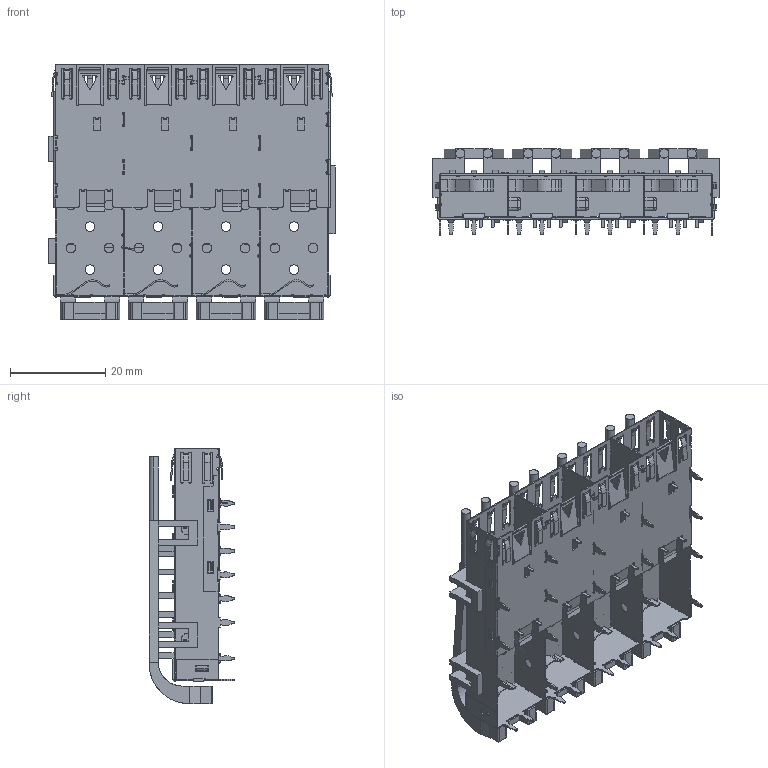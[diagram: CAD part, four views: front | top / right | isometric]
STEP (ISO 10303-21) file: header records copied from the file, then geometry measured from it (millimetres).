
FILE_DESCRIPTION( ('This file contains a STEP AP42 implementation' ,'as created by ZW3D STEP Interface translator.' ,'') ,'2;1' );
FILE_NAME( '10701114W002.stp' ,'25 630.154239', (''), ('ZWCAD Software Co.'), 'Version 1.0', 'ZW3D to STEP translator', '' );
FILE_SCHEMA(('AUTOMOTIVE_DESIGN { 1 0 10303 214 1 1 1 1 }'));
Length unit declared in the file: millimetre
Products named in the file (3): 0; 10701114W001; 錨璃16^10701114W001
Assembly tree (1 placements, depth 2):
  0
  10701114W001
    錨璃16^10701114W001
Bounding box: 60 x 18 x 53.5 mm (x, y, z)
Volume: 5551.9 mm3; surface area: 21148.6 mm2
Topology: 1 solids, 1 shells, 3177 faces, 9718 edges, 6336 vertices
Faces by surface type: plane 1598, cylinder 1529, bspline 50
Entity records: 117163 total; most frequent: CARTESIAN_POINT 27747, ORIENTED_EDGE 19382, DIRECTION 16648, EDGE_CURVE 9688, VERTEX_POINT 6337, VECTOR 5768, LINE 5768, AXIS2_PLACEMENT_3D 5440
